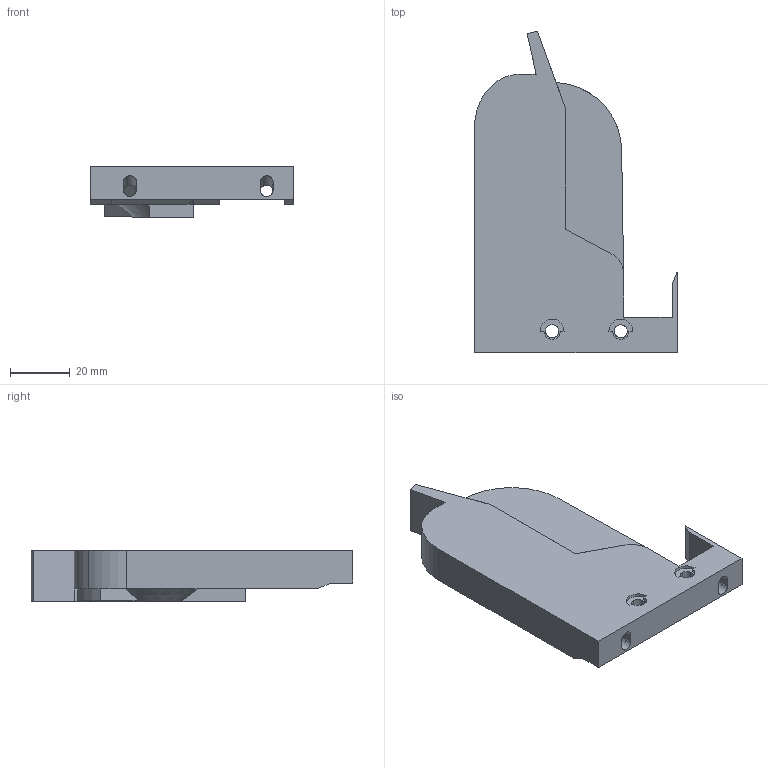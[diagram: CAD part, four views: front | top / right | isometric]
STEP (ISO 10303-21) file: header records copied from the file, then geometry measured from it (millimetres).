
FILE_DESCRIPTION (( 'STEP AP214' ), '1' );
FILE_NAME ('1D-Rastkupplung_OD60122400.STEP', '2022-07-22T15:49:57', ( '' ), ( '' ), 'SwSTEP 2.0', 'SolidWorks 2021', '' );
FILE_SCHEMA (( 'AUTOMOTIVE_DESIGN' ));
Length unit declared in the file: millimetre
Products named in the file (1): 1D-Rastkupplung_OD60122400
Bounding box: 68 x 107.67 x 16.9 mm (x, y, z)
Surface area: 15302.8 mm2 (no closed solid volume)
Topology: 0 solids, 1 shells, 81 faces, 243 edges, 162 vertices
Faces by surface type: plane 61, cylinder 15, bspline 4, cone 1
Entity records: 3947 total; most frequent: CARTESIAN_POINT 850, ORIENTED_EDGE 478, DIRECTION 415, EDGE_CURVE 243, LINE 189, VECTOR 189, VERTEX_POINT 162, AXIS2_PLACEMENT_3D 113
